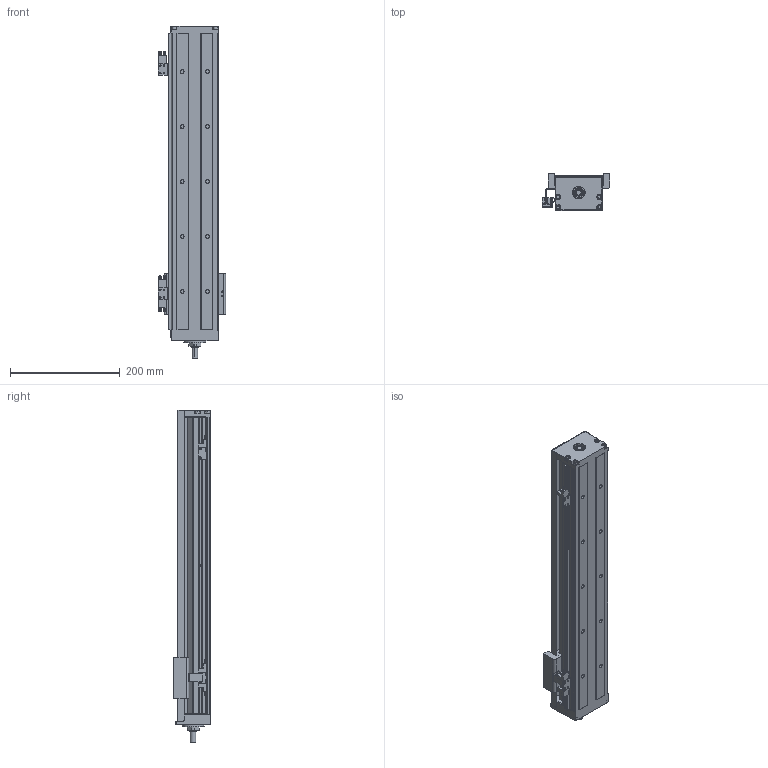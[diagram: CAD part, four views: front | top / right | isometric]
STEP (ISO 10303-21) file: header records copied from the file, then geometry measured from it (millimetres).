
FILE_DESCRIPTION (( 'STEP AP214' ), '1' );
FILE_NAME ('KK86-540A1-H0DS2.STEP', '2023-04-04T05:44:05', ( '微软用户' ), ( '微软中国' ), 'SwSTEP 2.0', 'SolidWorks 2018', '' );
FILE_SCHEMA (( 'AUTOMOTIVE_DESIGN' ));
Length unit declared in the file: millimetre
Products named in the file (11): KK86-540A1-H0DS2; KK86-S2-S2準梓覜茼え; SFKK86-H0_KKR86-ZT-P-540; KK86-耜啣_540; KK-86-CU-740祥凄詩裔啣_540; 极限轨道与开关固定座组合_540; SFKK86-LR 憤癹寢耋_540; SX674嫖萇羲壽; SFKK86-A1; KK-86-FS 準梓嘐隅す怢; 开关固定座：KK-674S2-F
Assembly tree (14 placements, depth 3):
  KK86-540A1-H0DS2
    SFKK86-H0_KKR86-ZT-P-540
    SFKK86-A1
    极限轨道与开关固定座组合_540
      SFKK86-LR 憤癹寢耋_540
      开关固定座：KK-674S2-F  x2
    SX674嫖萇羲壽  x3
    KK-86-FS 準梓嘐隅す怢
    KK-86-CU-740祥凄詩裔啣_540
    KK86-耜啣_540  x2
    KK86-S2-S2準梓覜茼え
Bounding box: 122.25 x 68 x 604 mm (x, y, z)
Volume: 1390187 mm3; surface area: 552670.8 mm2
Topology: 30 solids, 30 shells, 1611 faces, 4139 edges, 2601 vertices
Faces by surface type: plane 803, cylinder 572, cone 172, torus 43, sphere 15, bspline 6
Entity records: 53714 total; most frequent: CARTESIAN_POINT 11826, DIRECTION 7680, ORIENTED_EDGE 7360, EDGE_CURVE 3680, AXIS2_PLACEMENT_3D 2690, VERTEX_POINT 2357, LINE 2300, VECTOR 2300
